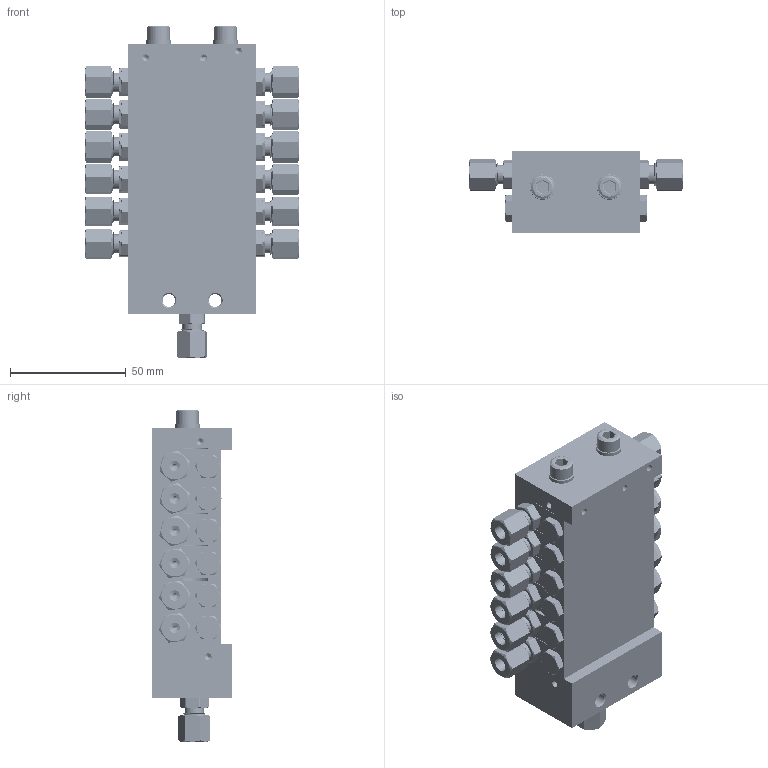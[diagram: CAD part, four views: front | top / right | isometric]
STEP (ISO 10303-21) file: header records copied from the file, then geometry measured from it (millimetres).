
FILE_DESCRIPTION (( 'STEP AP214' ), '1' );
FILE_NAME ('STW_XV_0143_12_050_12_Auslässe.STEP', '2026-01-28T15:01:07', ( '' ), ( '' ), 'SwSTEP 2.0', 'SolidWorks 2022', '' );
FILE_SCHEMA (( 'AUTOMOTIVE_DESIGN' ));
Length unit declared in the file: millimetre
Products named in the file (14): STW_XV_Kolbenanschlag; STW_XV_END; U_Scheibe_6; XV_Mittelelement; STW_XV_ENGANG; 991214010601_Koerper; 991214010601_Mutter; STW_XV_MITTEL_1; STW_XV_Verbindungsstopen; STW_XV_0143_12_050_12_Auslässe; 991214010601_Schneidring; M6X65_DIN_912; 991214010601; Verschlussstopfen_1_8_2
Assembly tree (49 placements, depth 3):
  STW_XV_0143_12_050_12_Auslässe
    STW_XV_ENGANG
    STW_XV_MITTEL_1  x3
    STW_XV_END
    Verschlussstopfen_1_8_2  x6
    STW_XV_Kolbenanschlag  x6
    STW_XV_Verbindungsstopen  x3
    M6X65_DIN_912  x2
    U_Scheibe_6  x2
    991214010601  x13
      991214010601_Koerper
      991214010601_Schneidring
      991214010601_Mutter
    XV_Mittelelement  x3
      STW_XV_MITTEL_1
      STW_XV_Kolbenanschlag
      Verschlussstopfen_1_8_2
      STW_XV_Verbindungsstopen
Bounding box: 92.76 x 35 x 143.68 mm (x, y, z)
Volume: 211871.9 mm3; surface area: 124043.1 mm2
Topology: 81 solids, 81 shells, 2592 faces, 6555 edges, 4212 vertices
Faces by surface type: plane 1167, cylinder 789, cone 450, bspline 174, torus 12
Full cylindrical faces by diameter (mm): 2 x161, 3 x13, 4.5 x13, 5 x65, 5.5 x2, 5.9 x2, 6 x15, 6.2 x27, 6.4 x2, 6.5 x12, 7 x12, 7.4 x13, 7.67 x13, 8 x25, 8.3 x13, 8.4 x6, 8.6 x30, 9 x26, 9.7 x12, 9.73 x6, 9.8 x91, 10 x14, 11 x2, 15 x1
Entity records: 40683 total; most frequent: CARTESIAN_POINT 20494, ORIENTED_EDGE 2738, DIRECTION 2333, EDGE_CURVE 1369, VERTEX_POINT 974, EDGE_LOOP 901, AXIS2_PLACEMENT_3D 817, FACE_OUTER_BOUND 724
